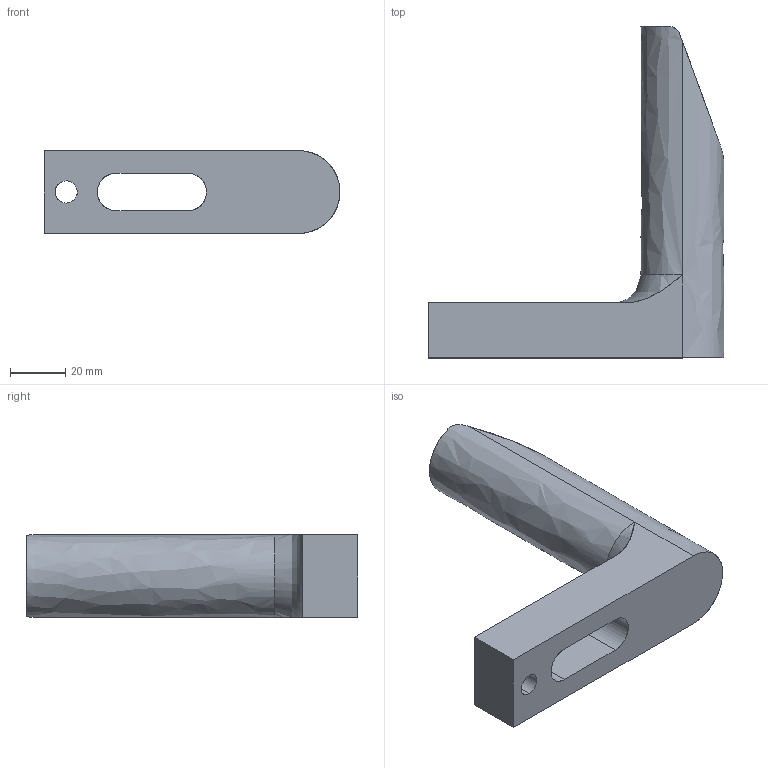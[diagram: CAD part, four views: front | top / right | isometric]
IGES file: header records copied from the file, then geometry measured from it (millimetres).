
Start section: START RECORD GO HERE.
Global section: file name: 702-4.igs; native system: DASSAULT SYSTEMES CATIA V5 R20 - www.3ds.com; preprocessor: CATIA Version 5 Release 20 ; author: r.borello; organization: CFTORINO; date: 20190703.160734; units: millimetre
Bounding box: 107 x 120 x 30 mm (x, y, z)
Surface area: 21335 mm2 (no closed solid volume)
Topology: 0 solids, 0 shells, 18 faces, 96 edges, 96 vertices
Faces by surface type: revolution 9, plane 9
